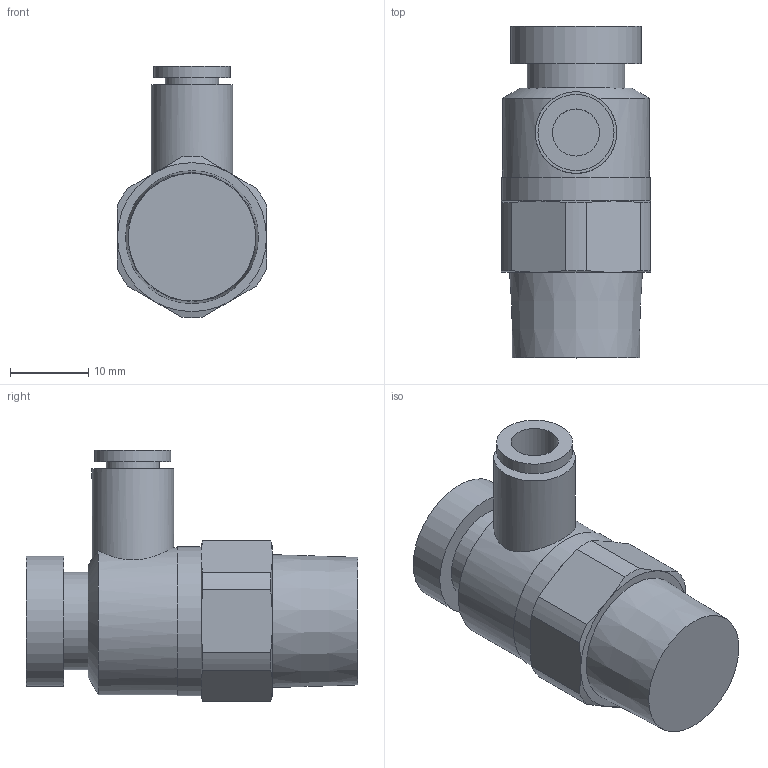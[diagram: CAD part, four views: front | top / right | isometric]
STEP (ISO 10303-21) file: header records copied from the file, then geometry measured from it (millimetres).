
FILE_DESCRIPTION(/* description */ ('STEP AP214'),/* implementation_level */ '2;1');
FILE_NAME(/* name */ 'AS3201F-03-06SA',/* time_stamp */ '2024-10-24T14:10:52+02:00',/* author */ ('License CC BY-ND 4.0'),/* organization */ ('CADENAS'),/* preprocessor_version */ 'ST-DEVELOPER v19.3',/* originating_system */ 'PARTsolutions',/* authorisation */ ' ');
FILE_SCHEMA (('AUTOMOTIVE_DESIGN {1 0 10303 214 3 1 1}'));
Length unit declared in the file: millimetre
Products named in the file (1): AS3201F-03-06SA
Bounding box: 19 x 42.3 x 32.09 mm (x, y, z)
Volume: 11141.5 mm3; surface area: 3826.4 mm2
Topology: 1 solids, 1 shells, 44 faces, 92 edges, 57 vertices
Faces by surface type: plane 16, cone 14, cylinder 14
Full cylindrical faces by diameter (mm): 6 x1, 6.79 x1, 9.7 x1, 10.4 x1, 12.45 x1, 16.6 x1, 18.75 x1, 19 x1
Entity records: 1170 total; most frequent: CARTESIAN_POINT 274, DIRECTION 184, ORIENTED_EDGE 158, AXIS2_PLACEMENT_3D 86, EDGE_CURVE 79, EDGE_LOOP 61, FACE_BOUND 61, VERTEX_POINT 54
